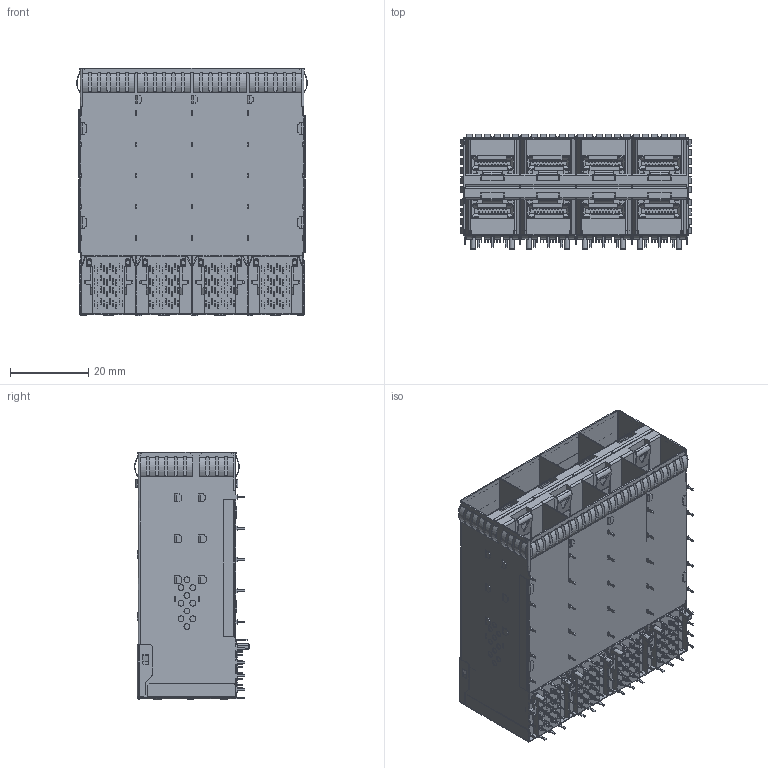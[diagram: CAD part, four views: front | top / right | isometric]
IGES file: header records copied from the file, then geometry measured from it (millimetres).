
Start section:  PTC IGES file: c-2180324-5-b-3d.igs
Global section: file name: c-2180324-5-b-3d.igs; native system: Creo Parametric by PTC Inc.; preprocessor: 2016050; author: workeradm; organization: Unknown; units: millimetre
Bounding box: 59.05 x 29.4 x 63.45 mm (x, y, z)
Surface area: 39334.9 mm2 (no closed solid volume)
Topology: 0 solids, 0 shells, 5468 faces, 30308 edges, 30292 vertices
Faces by surface type: bspline 3876, revolution 1592
